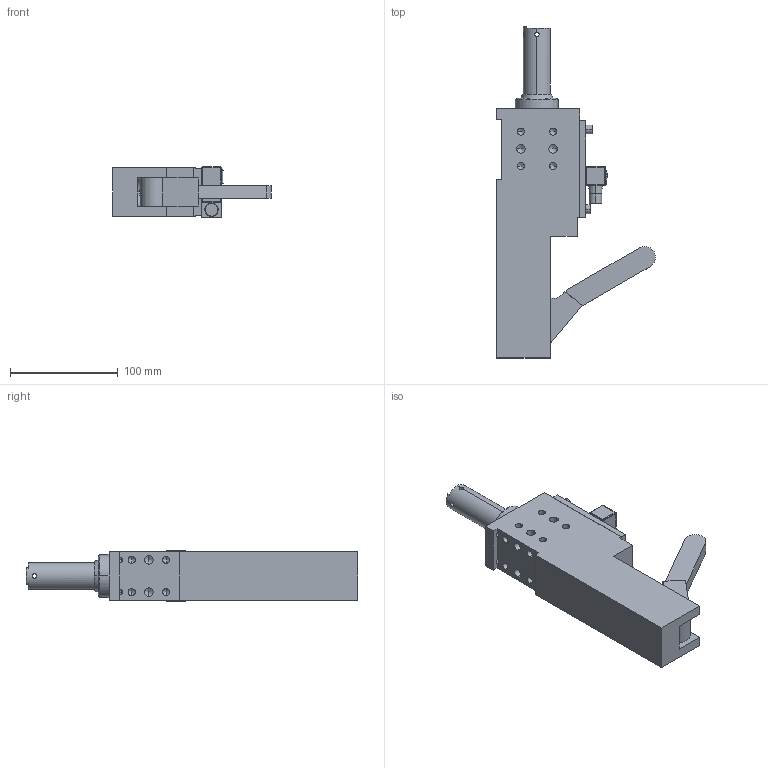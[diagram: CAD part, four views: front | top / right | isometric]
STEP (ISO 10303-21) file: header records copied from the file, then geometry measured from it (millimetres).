
FILE_DESCRIPTION((''),'2;1');
FILE_NAME('S:\Matthew\Step Files\Locators\XLPR 40-HO-40-S10.stp','2006-07-04T16:20:33',('Matthew'),(''),'Autodesk Inventor 8','Autodesk Inventor 8','');
FILE_SCHEMA(('AUTOMOTIVE_DESIGN { 1 0 10303 214 1 1 1 1 }'));
Length unit declared in the file: millimetre
Products named in the file (6): XLPR 40-HO-40-S10; XLPR 40-HO-40-S101; XLPR 40-HO-40-S102; XLPR 40-HO-40-S103; XLPR 40-HO-40-S104; XLPR 40-HO-40-S105
Assembly tree (5 placements, depth 2):
  XLPR 40-HO-40-S10
    XLPR 40-HO-40-S101
    XLPR 40-HO-40-S102
    XLPR 40-HO-40-S103
    XLPR 40-HO-40-S104
    XLPR 40-HO-40-S105
Bounding box: 147.45 x 308 x 47 mm (x, y, z)
Volume: 724150.7 mm3; surface area: 129768.9 mm2
Topology: 5 solids, 7 shells, 333 faces, 855 edges, 506 vertices
Faces by surface type: bspline 106, cylinder 102, plane 91, cone 14, torus 12, sphere 8
Entity records: 11742 total; most frequent: CARTESIAN_POINT 4007, ORIENTED_EDGE 1594, DIRECTION 1579, EDGE_CURVE 797, AXIS2_PLACEMENT_3D 590, VERTEX_POINT 506, VECTOR 399, LINE 399
